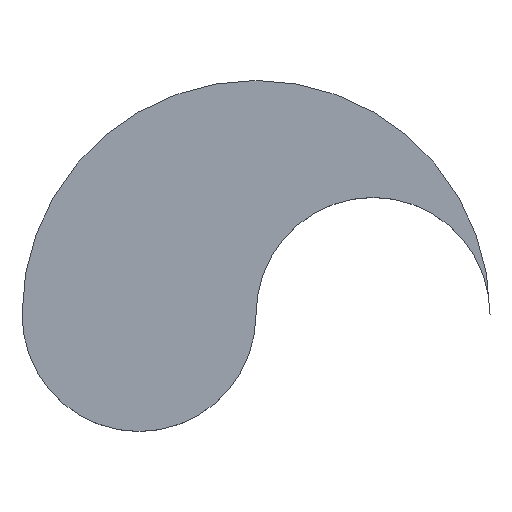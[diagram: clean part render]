
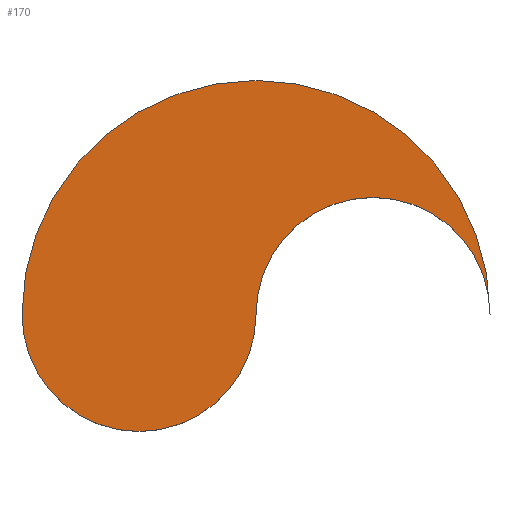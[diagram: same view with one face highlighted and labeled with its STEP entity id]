
A CAD part, top view. The second image highlights one B-rep face of the part: STEP entity #170.
In plain terms, the highlighted planar face has unit normal (0, 0, 1).
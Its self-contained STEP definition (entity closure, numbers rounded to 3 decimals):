
#19=PLANE('',#209);
#30=FACE_OUTER_BOUND('',#42,.T.);
#42=EDGE_LOOP('',(#150,#151,#152));
#54=CIRCLE('',#204,120.);
#55=CIRCLE('',#206,60.);
#56=CIRCLE('',#208,60.);
#84=VERTEX_POINT('',#306);
#85=VERTEX_POINT('',#308);
#86=VERTEX_POINT('',#312);
#104=EDGE_CURVE('',#85,#84,#54,.T.);
#106=EDGE_CURVE('',#86,#85,#55,.T.);
#108=EDGE_CURVE('',#84,#86,#56,.T.);
#150=ORIENTED_EDGE('',*,*,#108,.T.);
#151=ORIENTED_EDGE('',*,*,#106,.T.);
#152=ORIENTED_EDGE('',*,*,#104,.T.);
#170=ADVANCED_FACE('',(#30),#19,.F.);
#204=AXIS2_PLACEMENT_3D('',#309,#256,#257);
#206=AXIS2_PLACEMENT_3D('',#313,#261,#262);
#208=AXIS2_PLACEMENT_3D('',#316,#266,#267);
#209=AXIS2_PLACEMENT_3D('',#317,#268,#269);
#256=DIRECTION('center_axis',(0.,0.,1.));
#257=DIRECTION('ref_axis',(-1.,0.,0.));
#261=DIRECTION('center_axis',(0.,0.,-1.));
#262=DIRECTION('ref_axis',(-1.,0.,0.));
#266=DIRECTION('center_axis',(0.,0.,1.));
#267=DIRECTION('ref_axis',(1.,0.,0.));
#268=DIRECTION('center_axis',(0.,0.,-1.));
#269=DIRECTION('ref_axis',(1.,0.,0.));
#306=CARTESIAN_POINT('',(-370.,0.,18.));
#308=CARTESIAN_POINT('',(-130.,0.,18.));
#309=CARTESIAN_POINT('Origin',(-250.,0.,18.));
#312=CARTESIAN_POINT('',(-250.,0.,18.));
#313=CARTESIAN_POINT('Origin',(-190.,0.,18.));
#316=CARTESIAN_POINT('Origin',(-310.,0.,18.));
#317=CARTESIAN_POINT('Origin',(-250.,30.,18.));
